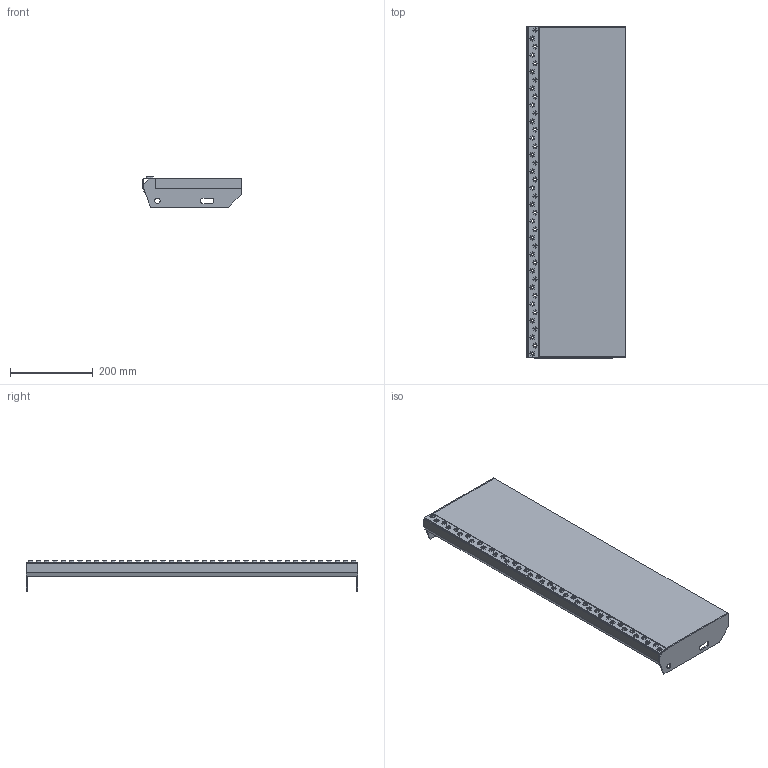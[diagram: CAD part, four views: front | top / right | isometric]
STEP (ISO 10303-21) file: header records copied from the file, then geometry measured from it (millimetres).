
FILE_DESCRIPTION(('Open CASCADE Model'),'2;1');
FILE_NAME('Open CASCADE Shape Model','2019-03-13T09:53:05',('Author'),( 'Open CASCADE'),'Open CASCADE STEP processor 7.2','Open CASCADE 7.2' ,'Unknown');
FILE_SCHEMA(('AUTOMOTIVE_DESIGN { 1 0 10303 214 1 1 1 1 }'));
Length unit declared in the file: millimetre
Products named in the file (1260): Open CASCADE STEP translator 7.2 1; Open CASCADE STEP translator 7.2 2; Open CASCADE STEP translator 7.2 3; Open CASCADE STEP translator 7.2 3.1; Open CASCADE STEP translator 7.2 3.2; Open CASCADE STEP translator 7.2 3.3; Open CASCADE STEP translator 7.2 3.4; Open CASCADE STEP translator 7.2 3.5; Open CASCADE STEP translator 7.2 3.6; Open CASCADE STEP translator 7.2 3.7; Open CASCADE STEP translator 7.2 3.8; Open CASCADE STEP translator 7.2 3.9; Open CASCADE STEP translator 7.2 3.10; Open CASCADE STEP translator 7.2 3.11; Open CASCADE STEP translator 7.2 3.12; Open CASCADE STEP translator 7.2 3.13; Open CASCADE STEP translator 7.2 3.14; Open CASCADE STEP translator 7.2 3.15; Open CASCADE STEP translator 7.2 3.16; Open CASCADE STEP translator 7.2 3.17; Open CASCADE STEP translator 7.2 3.18; Open CASCADE STEP translator 7.2 3.19; Open CASCADE STEP translator 7.2 3.20; Open CASCADE STEP translator 7.2 3.21; Open CASCADE STEP translator 7.2 3.22; Open CASCADE STEP translator 7.2 3.23; Open CASCADE STEP translator 7.2 3.24; Open CASCADE STEP translator 7.2 3.25; Open CASCADE STEP translator 7.2 3.26; Open CASCADE STEP translator 7.2 3.27; Open CASCADE STEP translator 7.2 3.28; Open CASCADE STEP translator 7.2 3.29; Open CASCADE STEP translator 7.2 3.30; Open CASCADE STEP translator 7.2 3.31; Open CASCADE STEP translator 7.2 3.32; Open CASCADE STEP translator 7.2 3.33; Open CASCADE STEP translator 7.2 3.34; Open CASCADE STEP translator 7.2 3.35; Open CASCADE STEP translator 7.2 3.36; Open CASCADE STEP translator 7.2 3.37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
Assembly tree (1256 placements, depth 2):
  Open CASCADE STEP translator 7.2 1
  Open CASCADE STEP translator 7.2 2
  Open CASCADE STEP translator 7.2 3
    Open CASCADE STEP translator 7.2 3.1
    Open CASCADE STEP translator 7.2 3.2
    Open CASCADE STEP translator 7.2 3.3
    Open CASCADE STEP translator 7.2 3.4
    Open CASCADE STEP translator 7.2 3.5
    Open CASCADE STEP translator 7.2 3.6
    Open CASCADE STEP translator 7.2 3.7
    Open CASCADE STEP translator 7.2 3.8
    Open CASCADE STEP translator 7.2 3.9
    Open CASCADE STEP translator 7.2 3.10
    Open CASCADE STEP translator 7.2 3.11
    Open CASCADE STEP translator 7.2 3.12
    Open CASCADE STEP translator 7.2 3.13
    Open CASCADE STEP translator 7.2 3.14
    Open CASCADE STEP translator 7.2 3.15
    Open CASCADE STEP translator 7.2 3.16
    Open CASCADE STEP translator 7.2 3.17
    Open CASCADE STEP translator 7.2 3.18
    Open CASCADE STEP translator 7.2 3.19
    Open CASCADE STEP translator 7.2 3.20
    Open CASCADE STEP translator 7.2 3.21
    Open CASCADE STEP translator 7.2 3.22
    Open CASCADE STEP translator 7.2 3.23
    Open CASCADE STEP translator 7.2 3.24
    Open CASCADE STEP translator 7.2 3.25
    Open CASCADE STEP translator 7.2 3.26
    Open CASCADE STEP translator 7.2 3.27
    Open CASCADE STEP translator 7.2 3.28
    Open CASCADE STEP translator 7.2 3.29
    Open CASCADE STEP translator 7.2 3.30
    Open CASCADE STEP translator 7.2 3.31
    Open CASCADE STEP translator 7.2 3.32
    Open CASCADE STEP translator 7.2 3.33
    Open CASCADE STEP translator 7.2 3.34
    Open CASCADE STEP translator 7.2 3.35
    Open CASCADE STEP translator 7.2 3.36
    Open CASCADE STEP translator 7.2 3.37
    Open CASCADE STEP translator 7.2 3.38
    Open CASCADE STEP translator 7.2 3.39
    Open CASCADE STEP translator 7.2 3.40
    Open CASCADE STEP translator 7.2 3.41
    Open CASCADE STEP translator 7.2 3.42
    Open CASCADE STEP translator 7.2 3.43
    Open CASCADE STEP translator 7.2 3.44
    Open CASCADE STEP translator 7.2 3.45
    Open CASCADE STEP translator 7.2 3.46
    Open CASCADE STEP translator 7.2 3.47
    Open CASCADE STEP translator 7.2 3.48
    Open CASCADE STEP translator 7.2 3.49
    Open CASCADE STEP translator 7.2 3.50
    Open CASCADE STEP translator 7.2 3.51
    Open CASCADE STEP translator 7.2 3.52
    Open CASCADE STEP translator 7.2 3.53
    Open CASCADE STEP translator 7.2 3.54
    Open CASCADE STEP translator 7.2 3.55
    Open CASCADE STEP translator 7.2 3.56
    Open CASCADE STEP translator 7.2 3.57
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Bounding box: 237 x 800 x 73 mm (x, y, z)
Volume: 4208671.2 mm3; surface area: 548256.3 mm2
Topology: 3 solids, 1259 shells, 1294 faces, 6900 edges, 6868 vertices
Faces by surface type: plane 1288, cylinder 6
Full cylindrical faces by diameter (mm): 13 x2
Entity records: 140072 total; most frequent: CARTESIAN_POINT 23411, DIRECTION 18974, LINE 13848, VECTOR 13848, ORIENTED_EDGE 6996, PCURVE 6996, DEFINITIONAL_REPRESENTATION 6996, EDGE_CURVE 6900
